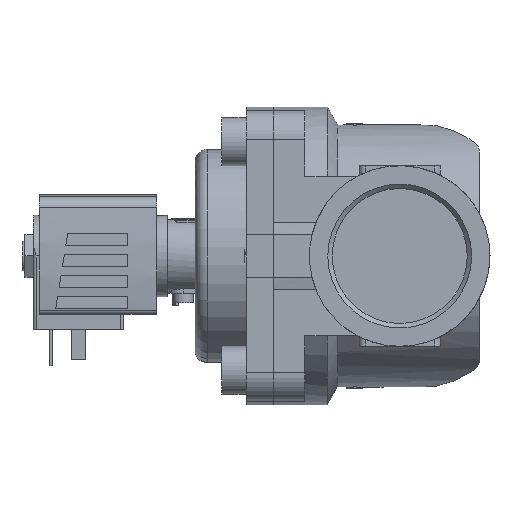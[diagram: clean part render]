
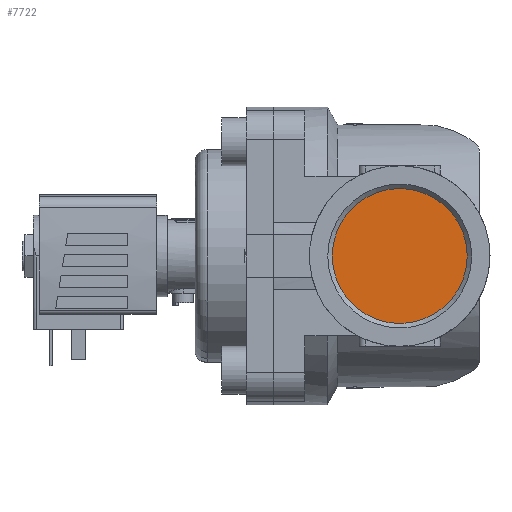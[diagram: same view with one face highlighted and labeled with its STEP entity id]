
A CAD part, left-side view. The second image highlights one B-rep face of the part: STEP entity #7722.
In plain terms, the highlighted planar face has unit normal (-1, 0, 0).
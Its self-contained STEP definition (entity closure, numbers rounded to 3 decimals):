
#2729=ORIENTED_EDGE('',*,*,#3948,.F.);
#3948=EDGE_CURVE('',#4666,#4666,#5012,.T.);
#4666=VERTEX_POINT('',#11929);
#5012=CIRCLE('',#8304,22.423);
#5343=EDGE_LOOP('',(#2729));
#5759=FACE_BOUND('',#5343,.T.);
#6058=PLANE('',#8305);
#7722=ADVANCED_FACE('',(#5759),#6058,.T.);
#8304=AXIS2_PLACEMENT_3D('',#11928,#9778,#9779);
#8305=AXIS2_PLACEMENT_3D('',#11930,#9780,#9781);
#9778=DIRECTION('',(1.,0.,0.));
#9779=DIRECTION('',(0.,0.,-1.));
#9780=DIRECTION('',(-1.,0.,0.));
#9781=DIRECTION('',(0.,0.,1.));
#11928=CARTESIAN_POINT('',(-36.,0.,0.));
#11929=CARTESIAN_POINT('',(-36.,0.,-22.423));
#11930=CARTESIAN_POINT('',(-36.,22.423,0.));
